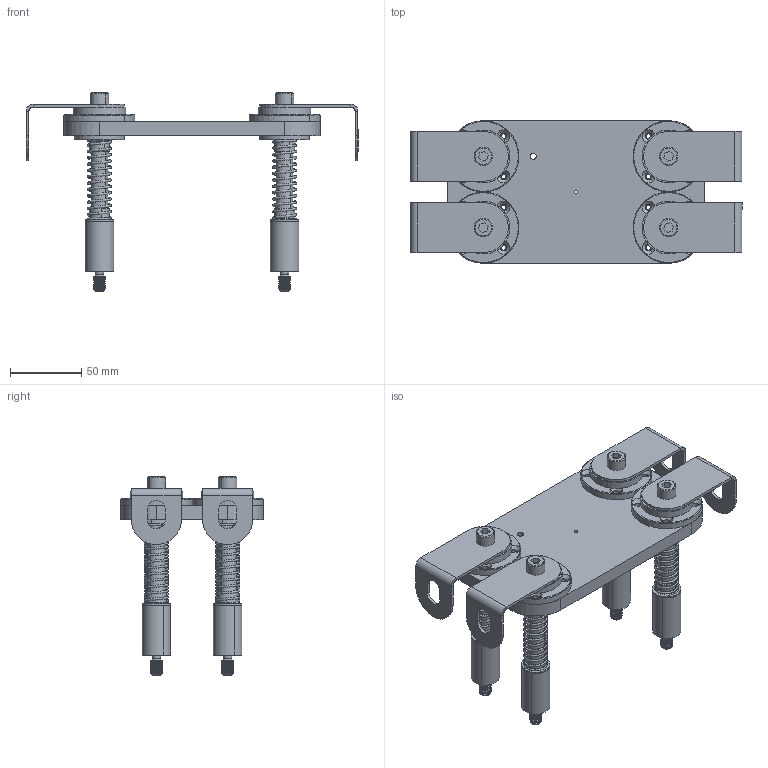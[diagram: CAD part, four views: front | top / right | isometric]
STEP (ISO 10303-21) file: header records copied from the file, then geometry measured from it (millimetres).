
FILE_DESCRIPTION (( 'STEP AP203' ), '1' );
FILE_NAME ('Floating attachment 130x50.STEP', '2020-04-07T04:42:13', ( '' ), ( '' ), 'SwSTEP 2.0', 'SolidWorks 2019', '' );
FILE_SCHEMA (( 'CONFIG_CONTROL_DESIGN' ));
Products named in the file (1): Floating attachment 130x50
Bounding box: 233 x 100 x 139 mm (x, y, z)
Surface area: 140857.9 mm2 (no closed solid volume)
Topology: 0 solids, 42 shells, 617 faces, 1660 edges, 1099 vertices
Faces by surface type: cylinder 296, plane 149, cone 88, bspline 44, torus 40
Entity records: 51726 total; most frequent: CARTESIAN_POINT 36442, DIRECTION 3260, ORIENTED_EDGE 3014, EDGE_CURVE 1660, AXIS2_PLACEMENT_3D 1317, VERTEX_POINT 1099, EDGE_LOOP 750, CIRCLE 743
